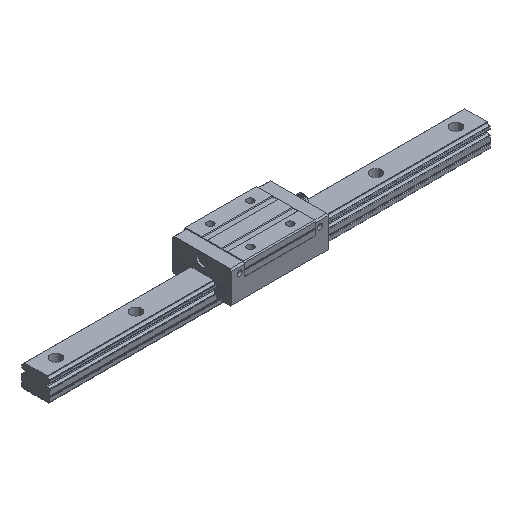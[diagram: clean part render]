
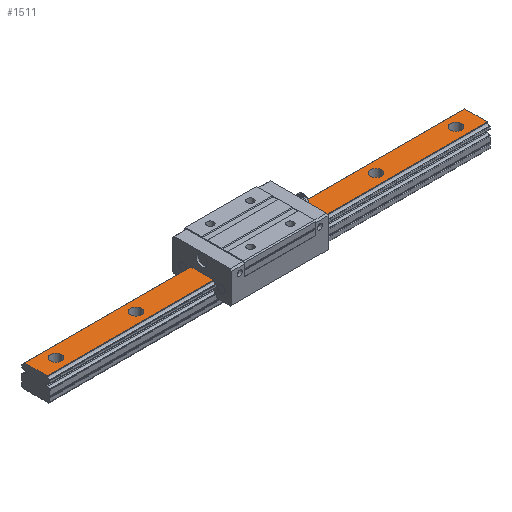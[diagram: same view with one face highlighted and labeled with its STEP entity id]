
A CAD part, isometric view. The second image highlights one B-rep face of the part: STEP entity #1511.
In plain terms, the highlighted planar face has unit normal (0, 0, 1).
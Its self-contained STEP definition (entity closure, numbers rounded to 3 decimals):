
#137=CARTESIAN_POINT('',(425.5,0.,23.));
#138=VERTEX_POINT('',#137);
#139=CARTESIAN_POINT('',(420.0,0.,23.));
#140=DIRECTION('',(0.0,0.0,-1.0));
#141=DIRECTION('',(1.0,0.0,0.0));
#142=AXIS2_PLACEMENT_3D('',#139,#140,#141);
#143=CIRCLE('',#142,5.5);
#144=EDGE_CURVE('',#138,#138,#143,.T.);
#247=CARTESIAN_POINT('',(345.5,0.,23.));
#248=VERTEX_POINT('',#247);
#249=CARTESIAN_POINT('',(340.0,0.,23.));
#250=DIRECTION('',(0.0,0.0,-1.0));
#251=DIRECTION('',(1.0,0.0,0.0));
#252=AXIS2_PLACEMENT_3D('',#249,#250,#251);
#253=CIRCLE('',#252,5.5);
#254=EDGE_CURVE('',#248,#248,#253,.T.);
#357=CARTESIAN_POINT('',(265.5,0.,23.));
#358=VERTEX_POINT('',#357);
#359=CARTESIAN_POINT('',(260.0,0.,23.));
#360=DIRECTION('',(0.0,0.0,-1.0));
#361=DIRECTION('',(1.0,0.0,0.0));
#362=AXIS2_PLACEMENT_3D('',#359,#360,#361);
#363=CIRCLE('',#362,5.5);
#364=EDGE_CURVE('',#358,#358,#363,.T.);
#467=CARTESIAN_POINT('',(185.5,0.,23.));
#468=VERTEX_POINT('',#467);
#469=CARTESIAN_POINT('',(180.0,0.,23.));
#470=DIRECTION('',(0.0,0.0,-1.0));
#471=DIRECTION('',(1.0,0.0,0.0));
#472=AXIS2_PLACEMENT_3D('',#469,#470,#471);
#473=CIRCLE('',#472,5.5);
#474=EDGE_CURVE('',#468,#468,#473,.T.);
#577=CARTESIAN_POINT('',(105.5,0.,23.));
#578=VERTEX_POINT('',#577);
#579=CARTESIAN_POINT('',(100.0,0.,23.));
#580=DIRECTION('',(0.0,0.0,-1.0));
#581=DIRECTION('',(1.0,0.0,0.0));
#582=AXIS2_PLACEMENT_3D('',#579,#580,#581);
#583=CIRCLE('',#582,5.5);
#584=EDGE_CURVE('',#578,#578,#583,.T.);
#687=CARTESIAN_POINT('',(25.5,0.,23.));
#688=VERTEX_POINT('',#687);
#689=CARTESIAN_POINT('',(20.0,0.,23.));
#690=DIRECTION('',(0.0,0.0,-1.0));
#691=DIRECTION('',(1.0,0.0,0.0));
#692=AXIS2_PLACEMENT_3D('',#689,#690,#691);
#693=CIRCLE('',#692,5.5);
#694=EDGE_CURVE('',#688,#688,#693,.T.);
#1437=CARTESIAN_POINT('',(440.0,-11.159,23.));
#1438=VERTEX_POINT('',#1437);
#1445=CARTESIAN_POINT('',(0.0,-11.159,23.));
#1446=VERTEX_POINT('',#1445);
#1447=CARTESIAN_POINT('',(0.0,-11.159,23.));
#1448=DIRECTION('',(1.0,0.0,0.0));
#1449=VECTOR('',#1448,440.0);
#1450=LINE('',#1447,#1449);
#1451=EDGE_CURVE('',#1446,#1438,#1450,.T.);
#1463=CARTESIAN_POINT('',(0.0,-11.159,23.));
#1464=DIRECTION('',(0.0,0.0,1.0));
#1465=DIRECTION('',(1.0,0.0,0.0));
#1466=AXIS2_PLACEMENT_3D('',#1463,#1464,#1465);
#1467=PLANE('',#1466);
#1468=CARTESIAN_POINT('',(440.0,11.159,23.));
#1469=VERTEX_POINT('',#1468);
#1470=CARTESIAN_POINT('',(440.0,-11.159,23.));
#1471=DIRECTION('',(0.0,1.0,0.0));
#1472=VECTOR('',#1471,22.318);
#1473=LINE('',#1470,#1472);
#1474=EDGE_CURVE('',#1438,#1469,#1473,.T.);
#1475=ORIENTED_EDGE('',*,*,#1474,.T.);
#1476=CARTESIAN_POINT('',(0.0,11.159,23.));
#1477=VERTEX_POINT('',#1476);
#1478=CARTESIAN_POINT('',(0.0,11.159,23.));
#1479=DIRECTION('',(1.0,0.0,0.0));
#1480=VECTOR('',#1479,440.0);
#1481=LINE('',#1478,#1480);
#1482=EDGE_CURVE('',#1477,#1469,#1481,.T.);
#1483=ORIENTED_EDGE('',*,*,#1482,.F.);
#1484=CARTESIAN_POINT('',(0.0,11.159,23.));
#1485=DIRECTION('',(0.0,-1.0,0.0));
#1486=VECTOR('',#1485,22.318);
#1487=LINE('',#1484,#1486);
#1488=EDGE_CURVE('',#1477,#1446,#1487,.T.);
#1489=ORIENTED_EDGE('',*,*,#1488,.T.);
#1490=ORIENTED_EDGE('',*,*,#1451,.T.);
#1491=EDGE_LOOP('',(#1475,#1483,#1489,#1490));
#1492=FACE_OUTER_BOUND('',#1491,.T.);
#1493=ORIENTED_EDGE('',*,*,#144,.T.);
#1494=EDGE_LOOP('',(#1493));
#1495=FACE_BOUND('',#1494,.T.);
#1496=ORIENTED_EDGE('',*,*,#254,.T.);
#1497=EDGE_LOOP('',(#1496));
#1498=FACE_BOUND('',#1497,.T.);
#1499=ORIENTED_EDGE('',*,*,#364,.T.);
#1500=EDGE_LOOP('',(#1499));
#1501=FACE_BOUND('',#1500,.T.);
#1502=ORIENTED_EDGE('',*,*,#474,.T.);
#1503=EDGE_LOOP('',(#1502));
#1504=FACE_BOUND('',#1503,.T.);
#1505=ORIENTED_EDGE('',*,*,#584,.T.);
#1506=EDGE_LOOP('',(#1505));
#1507=FACE_BOUND('',#1506,.T.);
#1508=ORIENTED_EDGE('',*,*,#694,.T.);
#1509=EDGE_LOOP('',(#1508));
#1510=FACE_BOUND('',#1509,.T.);
#1511=ADVANCED_FACE('',(#1492,#1495,#1498,#1501,#1504,#1507,#1510),#1467,.T.);
